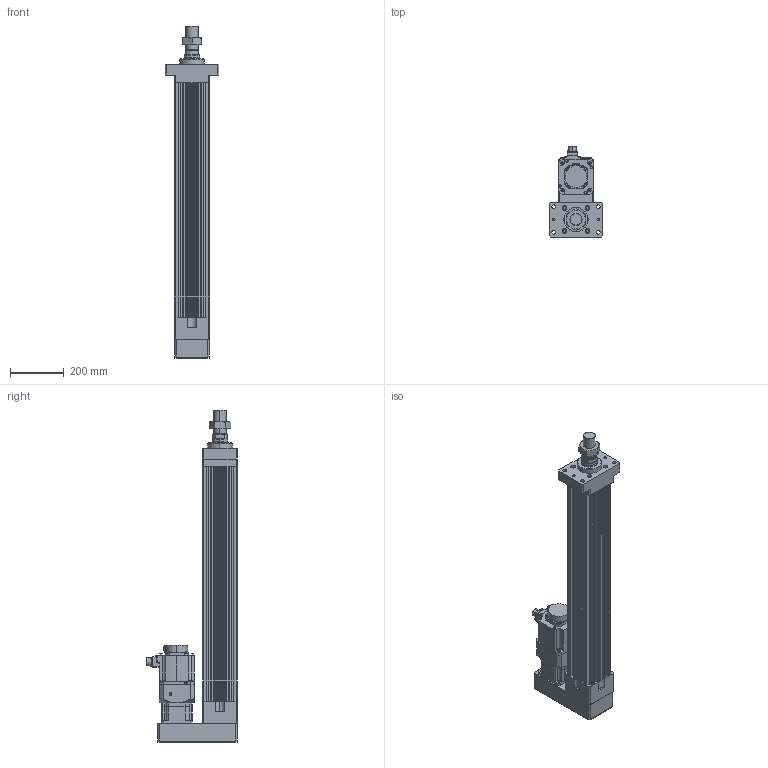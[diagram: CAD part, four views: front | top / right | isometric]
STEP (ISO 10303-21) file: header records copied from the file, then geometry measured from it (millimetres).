
FILE_DESCRIPTION (( 'STEP AP203' ), '1' );
FILE_NAME ('HES130NS(FS)(HS)-P650-W015G00-M-FMA.STEP', '2023-01-29T04:58:05', ( 'tms' ), ( '' ), 'SwSTEP 2.0', 'SolidWorks 2013', '' );
FILE_SCHEMA (( 'CONFIG_CONTROL_DESIGN' ));
Length unit declared in the file: millimetre
Products named in the file (8): AB1151; HES130-P650-G120-FMA; HES130 ROD M ST650; M45X1.5P; AB115-003[HG-SR152]; P0401400706; HG-SR152; HES130NS(FS)(HS)-P650-W015G00-M-FMA
Assembly tree (7 placements, depth 3):
  HES130NS(FS)(HS)-P650-W015G00-M-FMA
    HES130-P650-G120-FMA
    HES130 ROD M ST650
    M45X1.5P
    AB115-003[HG-SR152]
      AB1151
      P0401400706
    HG-SR152
Bounding box: 200 x 337.49 x 1232 mm (x, y, z)
Volume: 13650015 mm3; surface area: 1673374.7 mm2
Topology: 4 solids, 11 shells, 1082 faces, 2768 edges, 1799 vertices
Faces by surface type: cylinder 513, plane 489, cone 68, bspline 8, torus 4
Entity records: 34626 total; most frequent: CARTESIAN_POINT 6632, DIRECTION 5993, ORIENTED_EDGE 5484, EDGE_CURVE 2752, AXIS2_PLACEMENT_3D 2228, VERTEX_POINT 1799, LINE 1537, VECTOR 1537
